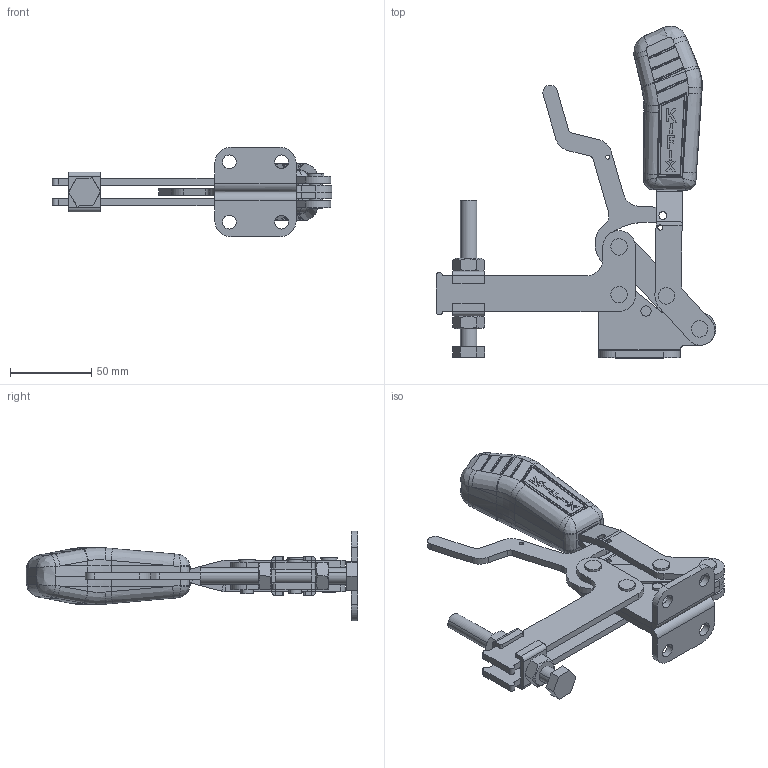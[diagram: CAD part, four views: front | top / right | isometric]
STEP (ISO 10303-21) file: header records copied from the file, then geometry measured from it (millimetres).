
FILE_DESCRIPTION (( 'STEP AP203' ), '1' );
FILE_NAME ('KF-631 DL TR.STEP', '2018-11-29T18:01:03', ( 'Ricardo' ), ( '' ), 'SwSTEP 2.0', 'SolidWorks 2018', '' );
FILE_SCHEMA (( 'CONFIG_CONTROL_DESIGN' ));
Length unit declared in the file: millimetre
Products named in the file (14): 11.50003; 3670000087; 02.12035_Direita; 01.10217_Direita; 02.12035_Esquerda; 01.10217_Esquerda; 03.13050; 3670000086; 08.10008; 18.10048; 07.60002; KF-631 DL TR; 14.10003; 12.50021
Assembly tree (20 placements, depth 2):
  KF-631 DL TR
    02.12035_Direita
    02.12035_Esquerda
    03.13050  x2
    08.10008  x2
    07.60002
    14.10003  x2
    12.50021
    11.50003  x2
    3670000087
    01.10217_Direita
    01.10217_Esquerda
    3670000086  x4
    18.10048
Bounding box: 172 x 203.93 x 55 mm (x, y, z)
Volume: 193648.7 mm3; surface area: 85026.5 mm2
Topology: 20 solids, 20 shells, 743 faces, 1874 edges, 1181 vertices
Faces by surface type: plane 283, cylinder 224, bspline 161, sphere 52, cone 20, torus 3
Entity records: 25374 total; most frequent: CARTESIAN_POINT 9285, ORIENTED_EDGE 3280, DIRECTION 2609, EDGE_CURVE 1640, VERTEX_POINT 1037, AXIS2_PLACEMENT_3D 986, EDGE_LOOP 723, FACE_OUTER_BOUND 648
